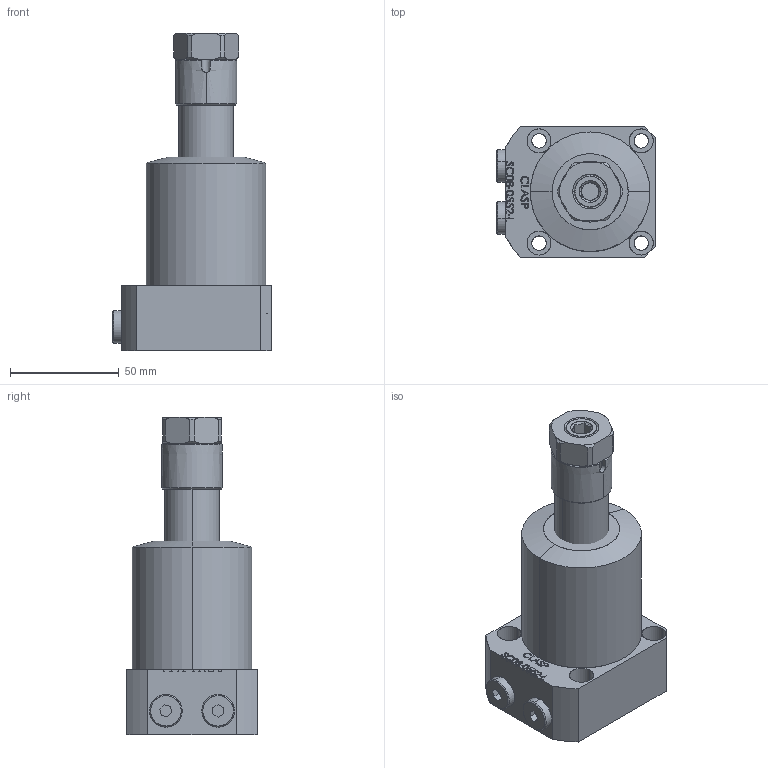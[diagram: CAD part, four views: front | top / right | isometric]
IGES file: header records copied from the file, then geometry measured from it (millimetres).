
Start section: SolidWorks IGES file using analytic representation for surfaces
Global section: file name: D:\karuppas\Clasp\3D model\SWING CYLINDER\bottom mounting swing cylinder\SC08-0552-L\SC08-0552-L.IGS; native system: SolidWorks 2017; preprocessor: SolidWorks 2017; author: pc; date: 220708.224855; units: millimetre
Bounding box: 73 x 60 x 146 mm (x, y, z)
Surface area: 44515.6 mm2 (no closed solid volume)
Topology: 0 solids, 0 shells, 374 faces, 5864 edges, 5863 vertices
Faces by surface type: bspline 267, revolution 107
